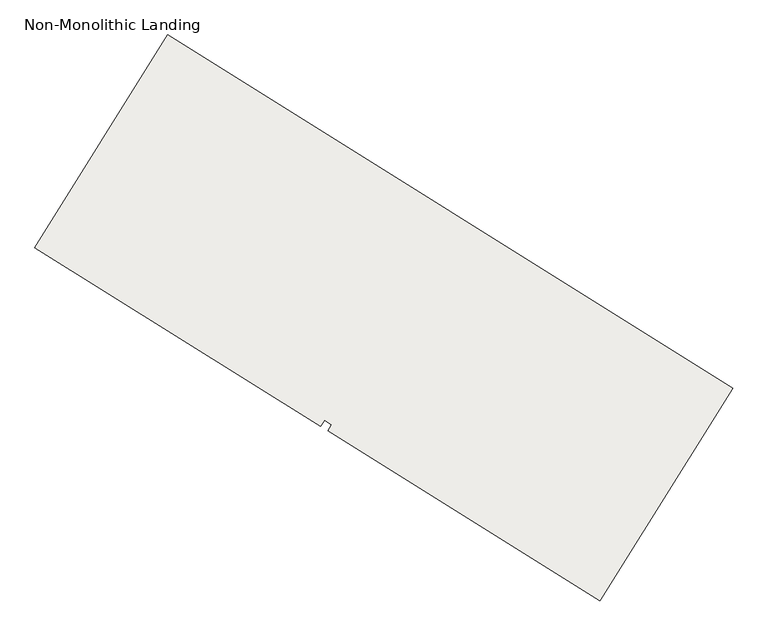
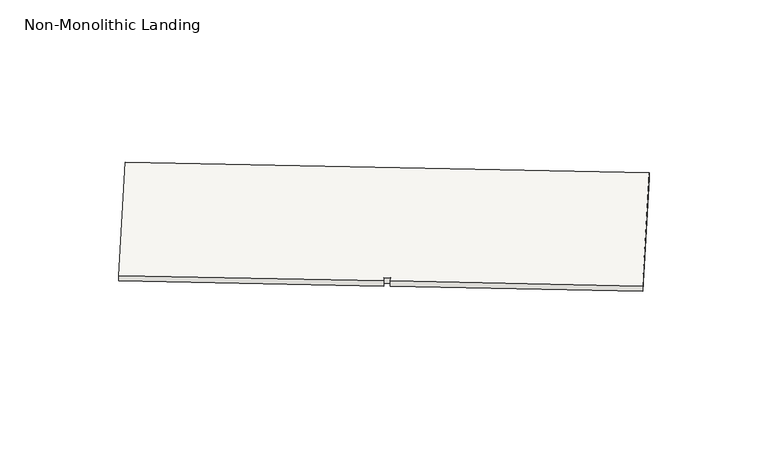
"""IFC4 building model written with IfcOpenShell, lengths in millimetres: slab geometry, Non-Monolithic Landing."""

from ifc_helpers import new_model, si_unit, frame, origin, place, context, project, spatial, polyline, outline, extrude, source, transform, mapped, element, save


def non_monolithic_landing_3749a595(model_context):
    return source(origin(), model_context, "Body", "SweptSolid", [
        extrude(outline(polyline([(45923.4413421, -49449.3404692), (46718.3202385, -48177.268325), (50096.7344612, -50288.3358308), (49301.8555649, -51560.4079751), (47675.9956027, -50544.4579142), (47698.4607568, -50508.5061523), (47654.6854494, -50481.1523043), (47632.2202952, -50517.1040662), (45923.4413421, -49449.3404692)])), frame((0.0, 0.0, -1850.0), z_axis=(0.0, 0.0, 1.0), x_axis=(1.0, 0.0, 0.0)), (0.0, 0.0, 1.0), 50.0),
    ])


if __name__ == "__main__":
    model = new_model("IFC4")
    model_context = context("Model", 3, world=origin())
    ifc_project = project(units=[si_unit("LENGTHUNIT", "METRE", prefix="MILLI")], contexts=[model_context])
    site = spatial("IfcSite", under=ifc_project)
    building = spatial("IfcBuilding", under=site)
    placement = place(None, origin())
    non_monolithic_landing_shape = non_monolithic_landing_3749a595(model_context)
    element("IfcSlab", 1, ObjectType="Non-Monolithic Landing", at=placement, inside=building, context=model_context, shape_type="MappedRepresentation", body=[
        mapped(non_monolithic_landing_shape, transform((0.0, 0.0, 0.0), x_axis=(1.0, 0.0, 0.0), y_axis=(0.0, 1.0, 0.0), z_axis=(0.0, 0.0, 1.0))),
    ])
    save(model, "model.ifc")
